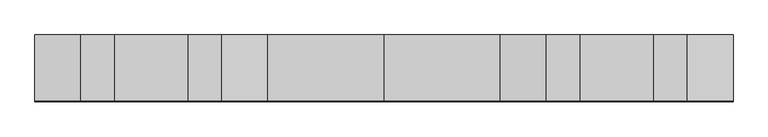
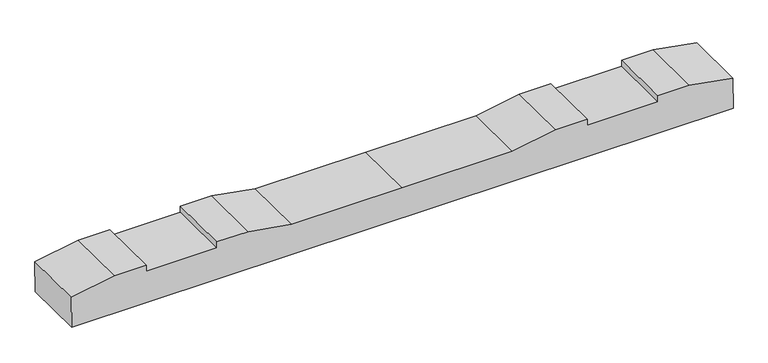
"""IFC4 building model written with IfcOpenShell, lengths in millimetres: proxy geometry, 轨枕-立面角度 : 轨枕-立面角度."""

from ifc_helpers import new_model, si_unit, frame, origin, place, context, project, spatial, polyline, outline, extrude, source, transform, mapped, element, save


def generic_models_dda2165d(model_context):
    return source(origin(), model_context, "Body", "SweptSolid", [
        extrude(outline(polyline([(0.0, 0.0), (0.0, -100.020689), (-137.8834664, -124.5), (-237.8834664, -124.5), (-237.8834664, -104.5), (-461.8834664, -104.5), (-461.8834664, -124.5), (-561.8834664, -124.5), (-699.8834664, -100.0), (-1049.8834664, -100.0), (-1399.8834664, -100.0), (-1537.8834664, -124.5), (-1637.8834664, -124.5), (-1637.8834664, -104.5), (-1861.8834664, -104.5), (-1861.8834664, -124.5), (-1961.8834664, -124.5), (-2099.7669328, -100.020689), (-2099.7669328, 0.0), (0.0, 0.0)])), frame((-1049.8834664, 98.965029, -105.4806761), z_axis=(0.0, -0.999951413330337, 0.009857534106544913), x_axis=(-1.0, 0.0, 0.0)), (0.0, 0.0, 1.0), 200.0),
    ])


if __name__ == "__main__":
    model = new_model("IFC4")
    model_context = context("Model", 3, world=origin())
    ifc_project = project(units=[si_unit("LENGTHUNIT", "METRE", prefix="MILLI")], contexts=[model_context])
    site = spatial("IfcSite", under=ifc_project)
    building = spatial("IfcBuilding", under=site)
    placement = place(None, origin())
    generic_models_shape = generic_models_dda2165d(model_context)
    element("IfcBuildingElementProxy", 1, Name="轨枕-立面角度 : 轨枕-立面角度", ObjectType="轨枕-立面角度 : 轨枕-立面角度", at=placement, inside=building, context=model_context, shape_type="MappedRepresentation", body=[
        mapped(generic_models_shape, transform((0.0, 0.0, 0.0), x_axis=(1.0, 0.0, 0.0), y_axis=(0.0, 1.0, 0.0), z_axis=(0.0, 0.0, 1.0))),
    ])
    save(model, "model.ifc")
